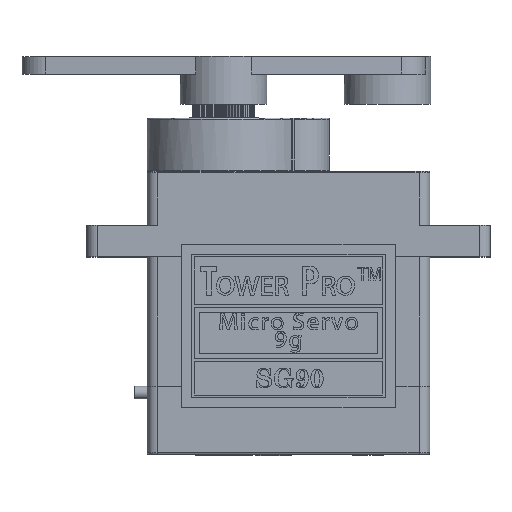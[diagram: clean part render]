
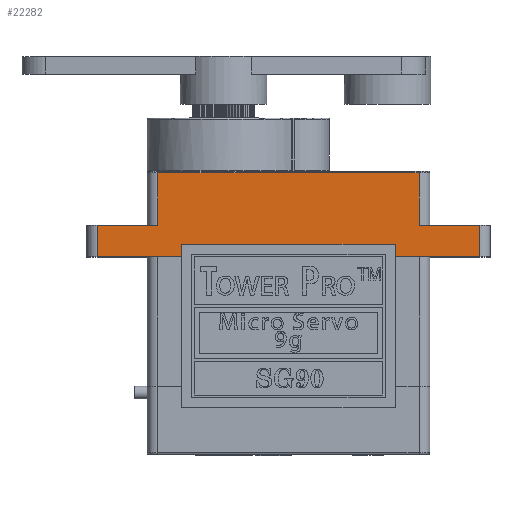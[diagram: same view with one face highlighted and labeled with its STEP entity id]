
A CAD part, top view. The second image highlights one B-rep face of the part: STEP entity #22282.
In plain terms, the highlighted planar face has unit normal (0, 0, 1).
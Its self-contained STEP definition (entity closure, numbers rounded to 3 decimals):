
#1537=PLANE('',#23767);
#2428=FACE_OUTER_BOUND('',#3598,.T.);
#3598=EDGE_LOOP('',(#19769,#19770,#19771,#19772,#19773,#19774,#19775,#19776,
#19777,#19778,#19779));
#5627=LINE('',#49339,#7762);
#5630=LINE('',#49353,#7765);
#5632=LINE('',#49358,#7767);
#5633=LINE('',#49360,#7768);
#5634=LINE('',#49361,#7769);
#5635=LINE('',#49363,#7770);
#5636=LINE('',#49365,#7771);
#5637=LINE('',#49367,#7772);
#5638=LINE('',#49369,#7773);
#5639=LINE('',#49371,#7774);
#5640=LINE('',#49372,#7775);
#7762=VECTOR('',#28308,4.8);
#7765=VECTOR('',#28321,2.5);
#7767=VECTOR('',#28325,10.);
#7768=VECTOR('',#28326,3.688);
#7769=VECTOR('',#28327,4.2);
#7770=VECTOR('',#28328,30.4);
#7771=VECTOR('',#28329,2.5);
#7772=VECTOR('',#28330,4.8);
#7773=VECTOR('',#28331,4.2);
#7774=VECTOR('',#28332,13.988);
#7775=VECTOR('',#28333,10.);
#10757=VERTEX_POINT('',#49336);
#10758=VERTEX_POINT('',#49338);
#10764=VERTEX_POINT('',#49351);
#10765=VERTEX_POINT('',#49356);
#10766=VERTEX_POINT('',#49357);
#10767=VERTEX_POINT('',#49359);
#10768=VERTEX_POINT('',#49362);
#10769=VERTEX_POINT('',#49364);
#10770=VERTEX_POINT('',#49366);
#10771=VERTEX_POINT('',#49368);
#10772=VERTEX_POINT('',#49370);
#13835=EDGE_CURVE('',#10757,#10758,#5627,.T.);
#13842=EDGE_CURVE('',#10757,#10764,#5630,.T.);
#13844=EDGE_CURVE('',#10765,#10766,#5632,.T.);
#13845=EDGE_CURVE('',#10765,#10767,#5633,.T.);
#13846=EDGE_CURVE('',#10767,#10758,#5634,.T.);
#13847=EDGE_CURVE('',#10764,#10768,#5635,.T.);
#13848=EDGE_CURVE('',#10769,#10768,#5636,.T.);
#13849=EDGE_CURVE('',#10770,#10769,#5637,.T.);
#13850=EDGE_CURVE('',#10771,#10770,#5638,.T.);
#13851=EDGE_CURVE('',#10771,#10772,#5639,.T.);
#13852=EDGE_CURVE('',#10766,#10772,#5640,.T.);
#19769=ORIENTED_EDGE('',*,*,#13844,.F.);
#19770=ORIENTED_EDGE('',*,*,#13845,.T.);
#19771=ORIENTED_EDGE('',*,*,#13846,.T.);
#19772=ORIENTED_EDGE('',*,*,#13835,.F.);
#19773=ORIENTED_EDGE('',*,*,#13842,.T.);
#19774=ORIENTED_EDGE('',*,*,#13847,.T.);
#19775=ORIENTED_EDGE('',*,*,#13848,.F.);
#19776=ORIENTED_EDGE('',*,*,#13849,.F.);
#19777=ORIENTED_EDGE('',*,*,#13850,.F.);
#19778=ORIENTED_EDGE('',*,*,#13851,.T.);
#19779=ORIENTED_EDGE('',*,*,#13852,.F.);
#22282=ADVANCED_FACE('',(#2428),#1537,.F.);
#23767=AXIS2_PLACEMENT_3D('',#49355,#28323,#28324);
#28308=DIRECTION('',(1.,0.,0.));
#28321=DIRECTION('',(0.,-1.,0.));
#28323=DIRECTION('center_axis',(0.,0.,-1.));
#28324=DIRECTION('ref_axis',(-1.,0.,0.));
#28325=DIRECTION('',(1.,0.,0.));
#28326=DIRECTION('',(-1.,0.,0.));
#28327=DIRECTION('',(0.,-1.,0.));
#28328=DIRECTION('',(1.,0.,0.));
#28329=DIRECTION('',(0.,-1.,0.));
#28330=DIRECTION('',(1.,0.,0.));
#28331=DIRECTION('',(0.,-1.,0.));
#28332=DIRECTION('',(-1.,0.,0.));
#28333=DIRECTION('',(1.,0.,0.));
#49336=CARTESIAN_POINT('',(-15.2,7.65,6.1));
#49338=CARTESIAN_POINT('',(-10.4,7.65,6.1));
#49339=CARTESIAN_POINT('',(-15.2,7.65,6.1));
#49351=CARTESIAN_POINT('',(-15.2,5.15,6.1));
#49353=CARTESIAN_POINT('',(-15.2,7.65,6.1));
#49355=CARTESIAN_POINT('Origin',(-15.2,7.65,6.1));
#49356=CARTESIAN_POINT('',(-6.712,11.85,6.1));
#49357=CARTESIAN_POINT('',(-5.15,11.85,6.1));
#49358=CARTESIAN_POINT('',(-6.712,11.85,6.1));
#49359=CARTESIAN_POINT('',(-10.4,11.85,6.1));
#49360=CARTESIAN_POINT('',(-6.712,11.85,6.1));
#49361=CARTESIAN_POINT('',(-10.4,11.85,6.1));
#49362=CARTESIAN_POINT('',(15.2,5.15,6.1));
#49363=CARTESIAN_POINT('',(-15.2,5.15,6.1));
#49364=CARTESIAN_POINT('',(15.2,7.65,6.1));
#49365=CARTESIAN_POINT('',(15.2,7.65,6.1));
#49366=CARTESIAN_POINT('',(10.4,7.65,6.1));
#49367=CARTESIAN_POINT('',(10.4,7.65,6.1));
#49368=CARTESIAN_POINT('',(10.4,11.85,6.1));
#49369=CARTESIAN_POINT('',(10.4,11.85,6.1));
#49370=CARTESIAN_POINT('',(-3.588,11.85,6.1));
#49371=CARTESIAN_POINT('',(10.4,11.85,6.1));
#49372=CARTESIAN_POINT('',(-5.15,11.85,6.1));
